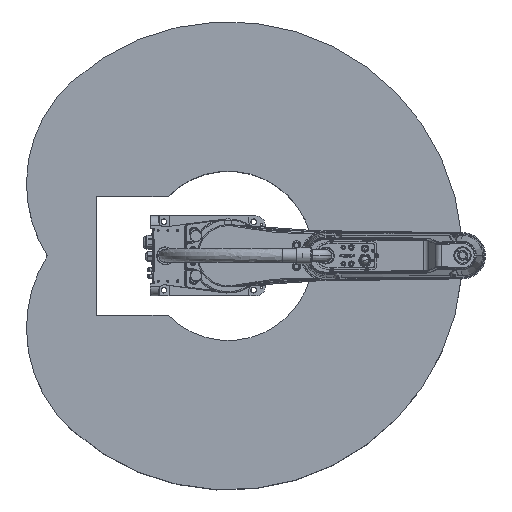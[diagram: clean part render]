
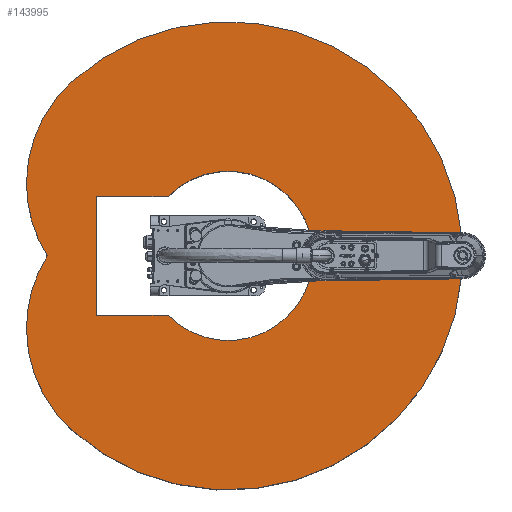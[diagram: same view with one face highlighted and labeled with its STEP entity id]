
A CAD part, top view. The second image highlights one B-rep face of the part: STEP entity #143995.
In plain terms, the highlighted planar face has unit normal (0, 0, 1) as drawn and (0, -1, 0) by its records, which use the part's own axes.
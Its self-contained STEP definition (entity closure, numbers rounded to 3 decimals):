
#556 = CARTESIAN_POINT ( 'NONE',  ( 152.5, -112., 154.379 ) ) ;
#1006 = FACE_BOUND ( 'NONE', #45309, .T. ) ;
#1224 = CARTESIAN_POINT ( 'NONE',  ( 0., -112., 0. ) ) ;
#1703 = VERTEX_POINT ( 'NONE', #42206 ) ;
#2377 = VECTOR ( 'NONE', #136901, 1000. ) ;
#2531 = VERTEX_POINT ( 'NONE', #91772 ) ;
#3165 = CARTESIAN_POINT ( 'NONE',  ( 185.786, -112., 167.283 ) ) ;
#11783 = DIRECTION ( 'NONE',  ( 0., 1., 0. ) ) ;
#15517 = DIRECTION ( 'NONE',  ( 0., 1., 0. ) ) ;
#15913 = VERTEX_POINT ( 'NONE', #160131 ) ;
#16709 = DIRECTION ( 'NONE',  ( 0., 1., 0. ) ) ;
#17428 = DIRECTION ( 'NONE',  ( 0., 0., 1. ) ) ;
#18496 = DIRECTION ( 'NONE',  ( 0., 0., 1. ) ) ;
#25760 = CIRCLE ( 'NONE', #133557, 350. ) ;
#28290 = DIRECTION ( 'NONE',  ( 0., 0., -1. ) ) ;
#28439 = ORIENTED_EDGE ( 'NONE', *, *, #48886, .T. ) ;
#28677 = LINE ( 'NONE', #77812, #172674 ) ;
#29629 = ORIENTED_EDGE ( 'NONE', *, *, #155768, .T. ) ;
#36213 = CARTESIAN_POINT ( 'NONE',  ( -152.5, -112., 337.5 ) ) ;
#36267 = CARTESIAN_POINT ( 'NONE',  ( 152.5, -112., 337.5 ) ) ;
#41050 = CIRCLE ( 'NONE', #51861, 350. ) ;
#42119 = CARTESIAN_POINT ( 'NONE',  ( 152.5, -112., 337.5 ) ) ;
#42206 = CARTESIAN_POINT ( 'NONE',  ( 185.786, -112., 517.283 ) ) ;
#43569 = EDGE_CURVE ( 'NONE', #2531, #1703, #56935, .T. ) ;
#43980 = ORIENTED_EDGE ( 'NONE', *, *, #85258, .T. ) ;
#45309 = EDGE_LOOP ( 'NONE', ( #156379, #29629, #28439, #43980 ) ) ;
#46740 = VERTEX_POINT ( 'NONE', #73280 ) ;
#48328 = CARTESIAN_POINT ( 'NONE',  ( -445.887, -112., 401.478 ) ) ;
#48886 = EDGE_CURVE ( 'NONE', #48894, #68680, #74119, .T. ) ;
#48894 = VERTEX_POINT ( 'NONE', #42119 ) ;
#51861 = AXIS2_PLACEMENT_3D ( 'NONE', #88430, #16709, #75190 ) ;
#52413 = ORIENTED_EDGE ( 'NONE', *, *, #168396, .F. ) ;
#53500 = CIRCLE ( 'NONE', #155726, 217. ) ;
#56231 = DIRECTION ( 'NONE',  ( 0., 0., 1. ) ) ;
#56447 = CARTESIAN_POINT ( 'NONE',  ( 445.887, -112., 401.478 ) ) ;
#56935 = CIRCLE ( 'NONE', #99167, 350. ) ;
#60071 = DIRECTION ( 'NONE',  ( 0., 1., 0. ) ) ;
#60686 = EDGE_CURVE ( 'NONE', #15913, #128632, #28677, .T. ) ;
#64824 = AXIS2_PLACEMENT_3D ( 'NONE', #156361, #11783, #127515 ) ;
#68680 = VERTEX_POINT ( 'NONE', #556 ) ;
#73280 = CARTESIAN_POINT ( 'NONE',  ( -185.786, -112., 517.283 ) ) ;
#74119 = LINE ( 'NONE', #127091, #107894 ) ;
#75190 = DIRECTION ( 'NONE',  ( 0., 0., 1. ) ) ;
#77812 = CARTESIAN_POINT ( 'NONE',  ( -152.5, -112., 337.5 ) ) ;
#82375 = ORIENTED_EDGE ( 'NONE', *, *, #43569, .F. ) ;
#85258 = EDGE_CURVE ( 'NONE', #68680, #15913, #53500, .T. ) ;
#86434 = DIRECTION ( 'NONE',  ( 0., 1., 0. ) ) ;
#88430 = CARTESIAN_POINT ( 'NONE',  ( 185.786, -112., 167.283 ) ) ;
#91772 = CARTESIAN_POINT ( 'NONE',  ( 0., -112., 463.903 ) ) ;
#99167 = AXIS2_PLACEMENT_3D ( 'NONE', #3165, #172950, #132091 ) ;
#101865 = DIRECTION ( 'NONE',  ( 0., 1., 0. ) ) ;
#104990 = AXIS2_PLACEMENT_3D ( 'NONE', #142629, #15517, #158880 ) ;
#106018 = ORIENTED_EDGE ( 'NONE', *, *, #110984, .F. ) ;
#106460 = AXIS2_PLACEMENT_3D ( 'NONE', #176349, #60071, #18496 ) ;
#107645 = CIRCLE ( 'NONE', #106460, 350. ) ;
#107894 = VECTOR ( 'NONE', #28290, 1000. ) ;
#110984 = EDGE_CURVE ( 'NONE', #127187, #118121, #132433, .T. ) ;
#113518 = CARTESIAN_POINT ( 'NONE',  ( -185.786, -112., 167.283 ) ) ;
#116326 = DIRECTION ( 'NONE',  ( 0., 0., -1. ) ) ;
#118121 = VERTEX_POINT ( 'NONE', #48328 ) ;
#126626 = EDGE_LOOP ( 'NONE', ( #82375, #52413, #179705, #106018, #174170 ) ) ;
#127091 = CARTESIAN_POINT ( 'NONE',  ( 152.5, -112., 154.379 ) ) ;
#127187 = VERTEX_POINT ( 'NONE', #56447 ) ;
#127515 = DIRECTION ( 'NONE',  ( 0., 0., 1. ) ) ;
#128632 = VERTEX_POINT ( 'NONE', #36213 ) ;
#131585 = EDGE_CURVE ( 'NONE', #118121, #46740, #25760, .T. ) ;
#132091 = DIRECTION ( 'NONE',  ( 0., 0., 1. ) ) ;
#132433 = CIRCLE ( 'NONE', #104990, 600. ) ;
#133557 = AXIS2_PLACEMENT_3D ( 'NONE', #113518, #86434, #56231 ) ;
#136901 = DIRECTION ( 'NONE',  ( 1., 0., 0. ) ) ;
#142629 = CARTESIAN_POINT ( 'NONE',  ( 0., -112., 0. ) ) ;
#143995 = ADVANCED_FACE ( 'NONE', ( #1006, #178705 ), #185327, .F. ) ;
#144040 = LINE ( 'NONE', #36267, #2377 ) ;
#146897 = EDGE_CURVE ( 'NONE', #1703, #127187, #41050, .T. ) ;
#155726 = AXIS2_PLACEMENT_3D ( 'NONE', #1224, #101865, #116326 ) ;
#155768 = EDGE_CURVE ( 'NONE', #128632, #48894, #144040, .T. ) ;
#156361 = CARTESIAN_POINT ( 'NONE',  ( 92.893, -112., 83.641 ) ) ;
#156379 = ORIENTED_EDGE ( 'NONE', *, *, #60686, .T. ) ;
#158880 = DIRECTION ( 'NONE',  ( 0., 0., 1. ) ) ;
#160131 = CARTESIAN_POINT ( 'NONE',  ( -152.5, -112., 154.379 ) ) ;
#168396 = EDGE_CURVE ( 'NONE', #46740, #2531, #107645, .T. ) ;
#172674 = VECTOR ( 'NONE', #17428, 1000. ) ;
#172950 = DIRECTION ( 'NONE',  ( 0., 1., 0. ) ) ;
#174170 = ORIENTED_EDGE ( 'NONE', *, *, #146897, .F. ) ;
#176349 = CARTESIAN_POINT ( 'NONE',  ( -185.786, -112., 167.283 ) ) ;
#178705 = FACE_OUTER_BOUND ( 'NONE', #126626, .T. ) ;
#179705 = ORIENTED_EDGE ( 'NONE', *, *, #131585, .F. ) ;
#185327 = PLANE ( 'NONE',  #64824 ) ;
